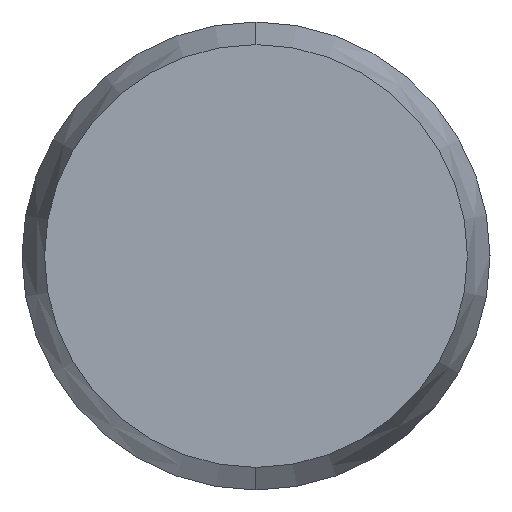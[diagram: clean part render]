
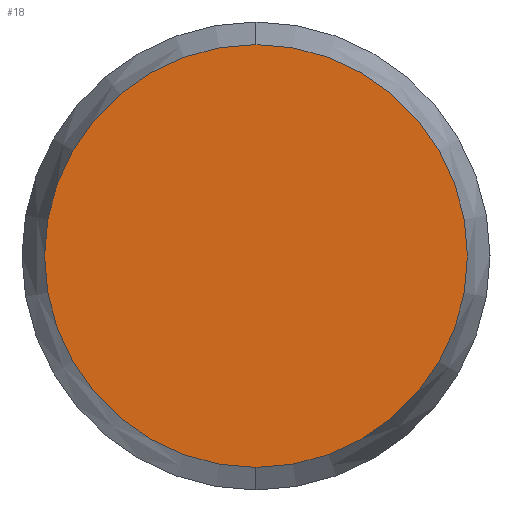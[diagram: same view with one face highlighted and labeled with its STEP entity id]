
A CAD part, left-side view. The second image highlights one B-rep face of the part: STEP entity #18.
In plain terms, the highlighted planar face has unit normal (-1, 0, 0).
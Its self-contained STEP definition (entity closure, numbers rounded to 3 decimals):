
#15 = EDGE_LOOP ( 'NONE', ( #41, #37 ) ) ;
#18 = ADVANCED_FACE ( 'NONE', ( #217 ), #274, .F. ) ;
#22 = EDGE_CURVE ( 'NONE', #68, #67, #264, .T. ) ;
#37 = ORIENTED_EDGE ( 'NONE', *, *, #22, .F. ) ;
#41 = ORIENTED_EDGE ( 'NONE', *, *, #66, .F. ) ;
#66 = EDGE_CURVE ( 'NONE', #67, #68, #93, .T. ) ;
#67 = VERTEX_POINT ( 'NONE', #88 ) ;
#68 = VERTEX_POINT ( 'NONE', #87 ) ;
#87 = CARTESIAN_POINT ( 'NONE',  ( -6., 0., -1.129 ) ) ;
#88 = CARTESIAN_POINT ( 'NONE',  ( -6., 0., 1.129 ) ) ;
#89 = DIRECTION ( 'NONE',  ( 0., 0., -1. ) ) ;
#90 = DIRECTION ( 'NONE',  ( 1., 0., 0. ) ) ;
#91 = CARTESIAN_POINT ( 'NONE',  ( -6., 0., 0. ) ) ;
#92 = AXIS2_PLACEMENT_3D ( 'NONE', #91, #90, #89 ) ;
#93 = CIRCLE ( 'NONE', #92, 1.129 ) ;
#217 = FACE_OUTER_BOUND ( 'NONE', #15, .T. ) ;
#260 = DIRECTION ( 'NONE',  ( 0., 0., -1. ) ) ;
#261 = DIRECTION ( 'NONE',  ( 1., 0., 0. ) ) ;
#262 = CARTESIAN_POINT ( 'NONE',  ( -6., 0., 0. ) ) ;
#263 = AXIS2_PLACEMENT_3D ( 'NONE', #262, #261, #260 ) ;
#264 = CIRCLE ( 'NONE', #263, 1.129 ) ;
#270 = DIRECTION ( 'NONE',  ( 0., 0., -1. ) ) ;
#271 = DIRECTION ( 'NONE',  ( 1., 0., 0. ) ) ;
#272 = CARTESIAN_POINT ( 'NONE',  ( -6., 0., 0. ) ) ;
#273 = AXIS2_PLACEMENT_3D ( 'NONE', #272, #271, #270 ) ;
#274 = PLANE ( 'NONE',  #273 ) ;
